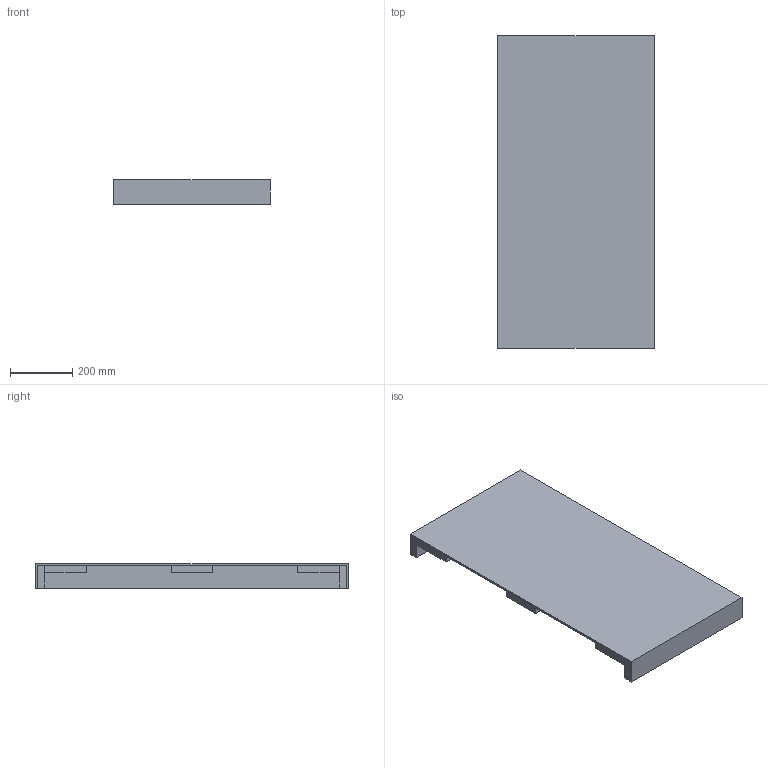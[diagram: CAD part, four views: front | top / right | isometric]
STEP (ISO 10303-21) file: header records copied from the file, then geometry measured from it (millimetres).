
FILE_DESCRIPTION(/* description */ (''),/* implementation_level */ '2;1');
FILE_NAME(/* name */ 'H41911x',/* time_stamp */ '2025-03-13T09:59:01+01:00',/* author */ (''),/* organization */ (''),/* preprocessor_version */ 'ST-DEVELOPER v16.5',/* originating_system */ 'Rhino 7.38',/* authorisation */ '');
FILE_SCHEMA (('AUTOMOTIVE_DESIGN'));
Length unit declared in the file: centimetre
Products named in the file (1): Document
Bounding box: 504 x 1005 x 80 mm (x, y, z)
Volume: 11569107 mm3; surface area: 2175930 mm2
Topology: 7 solids, 7 shells, 46 faces, 96 edges, 64 vertices
Faces by surface type: plane 46
Entity records: 1071 total; most frequent: CARTESIAN_POINT 304, ORIENTED_EDGE 192, EDGE_CURVE 96, B_SPLINE_CURVE_WITH_KNOTS 96, VERTEX_POINT 64, DIRECTION 50, AXIS2_PLACEMENT_3D 48, ADVANCED_FACE 46
